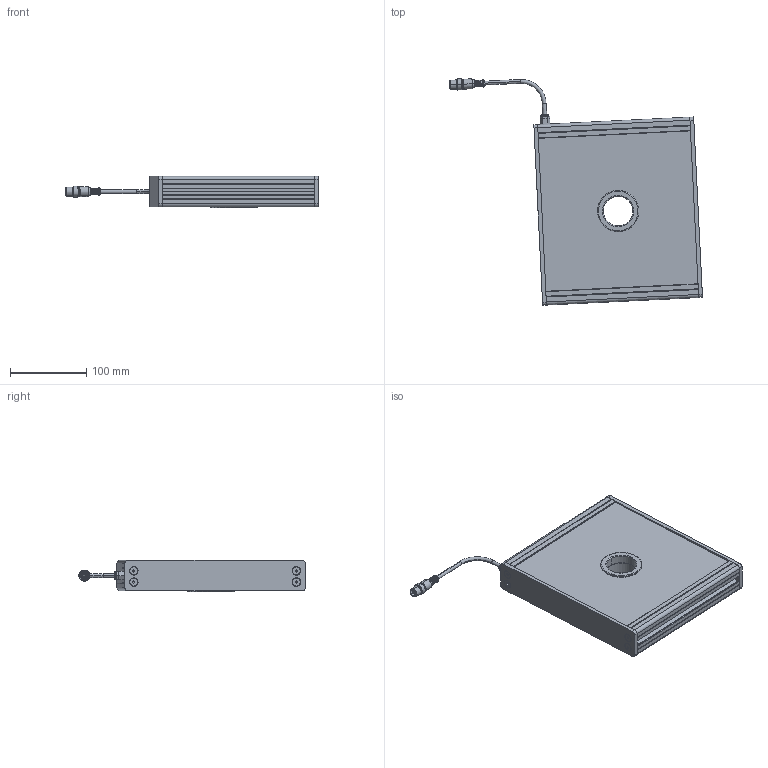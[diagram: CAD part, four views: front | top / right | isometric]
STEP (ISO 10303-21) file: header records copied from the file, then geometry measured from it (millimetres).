
FILE_DESCRIPTION (( 'STEP AP214' ), '1' );
FILE_NAME ('EFFI-FD-200-200T.STEP', '2025-02-19T15:32:56', ( '' ), ( '' ), 'SwSTEP 2.0', 'SolidWorks 2024', '' );
FILE_SCHEMA (( 'AUTOMOTIVE_DESIGN' ));
Length unit declared in the file: millimetre
Products named in the file (1): EFFI-FD-200-200T
Bounding box: 331.22 x 296.54 x 41 mm (x, y, z)
Surface area: 178287.1 mm2 (no closed solid volume)
Topology: 0 solids, 39 shells, 413 faces, 1241 edges, 861 vertices
Faces by surface type: plane 189, cylinder 134, cone 52, bspline 20, torus 18
Entity records: 14423 total; most frequent: CARTESIAN_POINT 3380, DIRECTION 2407, ORIENTED_EDGE 1955, EDGE_CURVE 1231, VERTEX_POINT 861, AXIS2_PLACEMENT_3D 854, LINE 699, VECTOR 699
